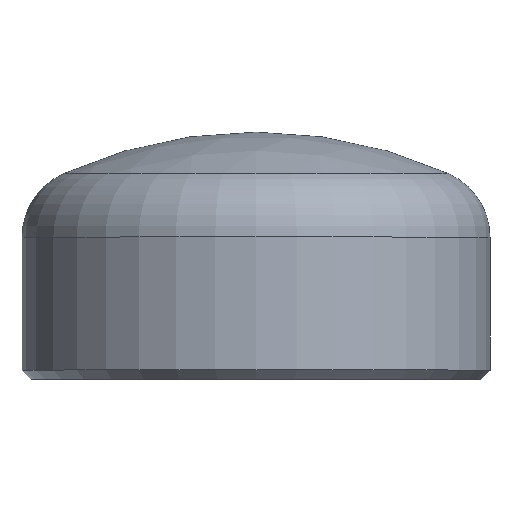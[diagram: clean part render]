
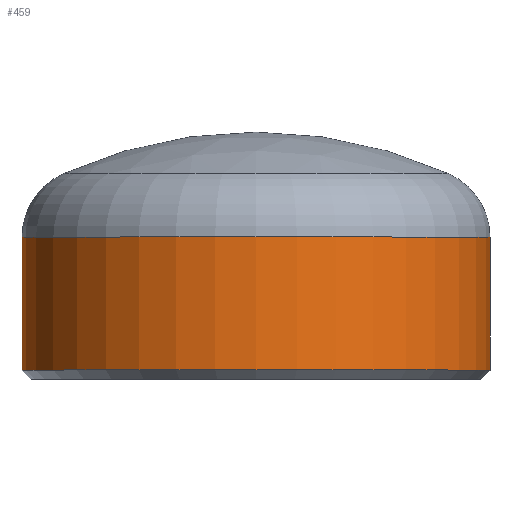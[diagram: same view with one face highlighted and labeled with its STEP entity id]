
A CAD part, top view. The second image highlights one B-rep face of the part: STEP entity #459.
In plain terms, the highlighted cylindrical face has radius 84.15 mm (diameter 168.3 mm), a partial arc.
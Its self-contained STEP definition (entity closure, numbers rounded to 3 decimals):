
#9 = AXIS2_PLACEMENT_3D ( 'NONE', #282, #354, #108 ) ;
#16 = ORIENTED_EDGE ( 'NONE', *, *, #17, .T. ) ;
#17 = EDGE_CURVE ( 'NONE', #451, #412, #409, .T. ) ;
#41 = CARTESIAN_POINT ( 'NONE',  ( -84.15, 2817.965, 0. ) ) ;
#58 = DIRECTION ( 'NONE',  ( 0., 1., 0. ) ) ;
#60 = DIRECTION ( 'NONE',  ( 0., 1., 0. ) ) ;
#63 = AXIS2_PLACEMENT_3D ( 'NONE', #421, #58, #175 ) ;
#99 = CARTESIAN_POINT ( 'NONE',  ( 0., 51.093, 0. ) ) ;
#108 = DIRECTION ( 'NONE',  ( -1., 0., 0. ) ) ;
#138 = CARTESIAN_POINT ( 'NONE',  ( -84.15, 3.3, 0. ) ) ;
#158 = EDGE_CURVE ( 'NONE', #451, #168, #366, .T. ) ;
#168 = VERTEX_POINT ( 'NONE', #294 ) ;
#175 = DIRECTION ( 'NONE',  ( 1., 0., 0. ) ) ;
#186 = DIRECTION ( 'NONE',  ( 0., 1., 0. ) ) ;
#209 = EDGE_CURVE ( 'NONE', #412, #290, #370, .T. ) ;
#244 = CARTESIAN_POINT ( 'NONE',  ( 84.15, 3.3, 0. ) ) ;
#281 = AXIS2_PLACEMENT_3D ( 'NONE', #99, #60, #351 ) ;
#282 = CARTESIAN_POINT ( 'NONE',  ( 0., 2817.965, 0. ) ) ;
#290 = VERTEX_POINT ( 'NONE', #440 ) ;
#294 = CARTESIAN_POINT ( 'NONE',  ( -84.15, 51.093, 0. ) ) ;
#299 = DIRECTION ( 'NONE',  ( 0., 1., 0. ) ) ;
#327 = ORIENTED_EDGE ( 'NONE', *, *, #158, .F. ) ;
#347 = ORIENTED_EDGE ( 'NONE', *, *, #209, .T. ) ;
#351 = DIRECTION ( 'NONE',  ( -1., 0., 0. ) ) ;
#354 = DIRECTION ( 'NONE',  ( 0., 1., 0. ) ) ;
#362 = CARTESIAN_POINT ( 'NONE',  ( 84.15, 2817.965, 0. ) ) ;
#366 = LINE ( 'NONE', #41, #425 ) ;
#370 = LINE ( 'NONE', #362, #401 ) ;
#381 = FACE_OUTER_BOUND ( 'NONE', #439, .T. ) ;
#388 = CYLINDRICAL_SURFACE ( 'NONE', #9, 84.15 ) ;
#401 = VECTOR ( 'NONE', #186, 1000. ) ;
#408 = ORIENTED_EDGE ( 'NONE', *, *, #460, .F. ) ;
#409 = CIRCLE ( 'NONE', #63, 84.15 ) ;
#412 = VERTEX_POINT ( 'NONE', #244 ) ;
#418 = CIRCLE ( 'NONE', #281, 84.15 ) ;
#421 = CARTESIAN_POINT ( 'NONE',  ( 0., 3.3, 0. ) ) ;
#425 = VECTOR ( 'NONE', #299, 1000. ) ;
#439 = EDGE_LOOP ( 'NONE', ( #16, #347, #408, #327 ) ) ;
#440 = CARTESIAN_POINT ( 'NONE',  ( 84.15, 51.093, 0. ) ) ;
#451 = VERTEX_POINT ( 'NONE', #138 ) ;
#459 = ADVANCED_FACE ( 'NONE', ( #381 ), #388, .T. ) ;
#460 = EDGE_CURVE ( 'NONE', #168, #290, #418, .T. ) ;
